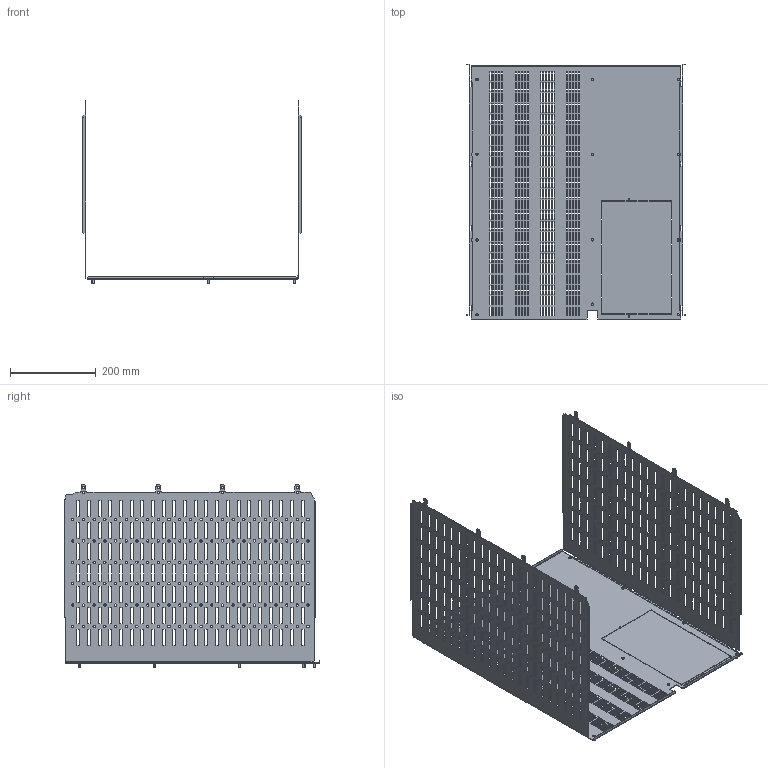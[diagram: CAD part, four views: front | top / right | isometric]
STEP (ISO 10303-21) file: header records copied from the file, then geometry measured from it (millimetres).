
FILE_DESCRIPTION(('CAx-IF Rec.Pracs.---Model Styling and Organization---1.2---2011-12-15','CAx-IF Rec.Pracs.---Geometric and Assembly Validation Properties---4.1---2014-06-16','CAx-IF Rec.Pracs.---PMI Polyline Presentation---2.0---2013-05-24'),'2;1');
FILE_NAME('R5M2WPV12M.stp','2021-05-05T13:03:33+03:00',(''),(''),'STEP Interface 4.4 by CT CoreTechnologie','3D_Evolution4.4 by CT CoreTechnologie','');
FILE_SCHEMA(('AUTOMOTIVE_DESIGN { 1 0 10303 214 1 1 1 1 }'));
Length unit declared in the file: millimetre
Products named in the file (5): R5M2WPV12M; M5x8-DIN7500C_stright; RB.1600.00.00.0_-06; RB.1285.00.00.0_-16; RB.1285.00.00.0_-17
Assembly tree (15 placements, depth 2):
  R5M2WPV12M
    M5x8-DIN7500C_stright  x12
    RB.1600.00.00.0_-06
    RB.1285.00.00.0_-16
    RB.1285.00.00.0_-17
Bounding box: 510 x 597.5 x 429.1 mm (x, y, z)
Surface area: 1386809.2 mm2 (no closed solid volume)
Topology: 0 solids, 16 shells, 4065 faces, 12139 edges, 8090 vertices
Faces by surface type: plane 3355, cylinder 710
Entity records: 138967 total; most frequent: CARTESIAN_POINT 24156, ORIENTED_EDGE 24146, DIRECTION 21525, EDGE_CURVE 12073, VECTOR 10695, LINE 10695, VERTEX_POINT 8046, EDGE_LOOP 6205
